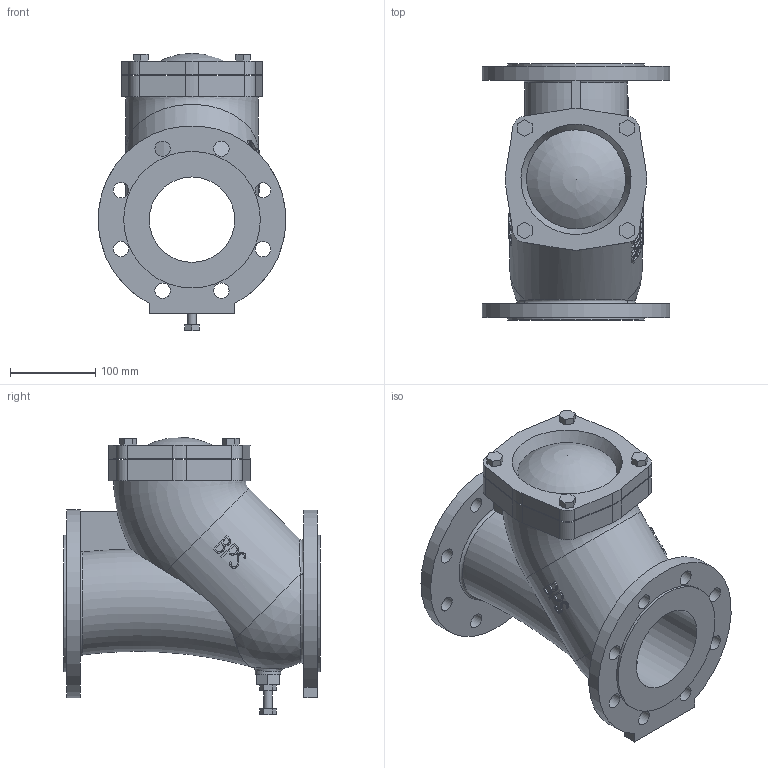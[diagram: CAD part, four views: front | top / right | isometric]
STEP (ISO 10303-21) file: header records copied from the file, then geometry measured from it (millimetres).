
FILE_DESCRIPTION( ( 'Unknown' ), '1' );
FILE_NAME( 'J:/Muud/ROOTSI BPS 3D vidinad/Kuuliga tagasiloogiklapid/STEP formaat/BPS 6538100 ball check valve DN100.stp', 'Unknown', ( 'Unknown' ), ( 'Unknown' ), 'PSStep 10.1', 'Unknown', ' ' );
FILE_SCHEMA( ( 'AUTOMOTIVE_DESIGN { 1 0 10303 214 1 1 1 1 }' ) );
Length unit declared in the file: millimetre
Products named in the file (2): 1; 2
Bounding box: 220 x 300 x 324.84 mm (x, y, z)
Volume: 5443563.7 mm3; surface area: 500062 mm2
Topology: 2 solids, 2 shells, 312 faces, 795 edges, 531 vertices
Faces by surface type: plane 167, cylinder 75, bspline 63, torus 4, sphere 2, cone 1
Full cylindrical faces by diameter (mm): 10 x1, 11 x8, 17.294 x1, 18 x16, 30 x1, 100 x1, 160 x2, 220 x1
Entity records: 26159 total; most frequent: CARTESIAN_POINT 17153, ORIENTED_EDGE 1456, DIRECTION 961, EDGE_CURVE 728, VERTEX_POINT 508, EDGE_LOOP 442, B_SPLINE_CURVE_WITH_KNOTS 390, AXIS2_PLACEMENT_3D 372
